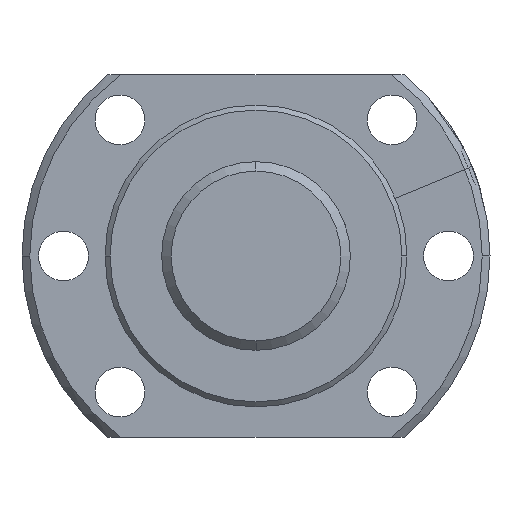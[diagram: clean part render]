
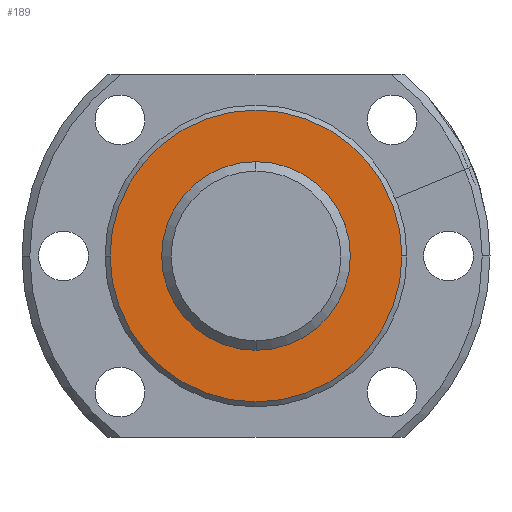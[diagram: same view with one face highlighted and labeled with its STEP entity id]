
A CAD part, left-side view. The second image highlights one B-rep face of the part: STEP entity #189.
In plain terms, the highlighted planar face has unit normal (-1, 0, 0).
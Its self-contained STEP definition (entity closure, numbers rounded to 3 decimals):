
#189 = ADVANCED_FACE( '', ( #345, #346 ), #347, .T. );
#345 = FACE_BOUND( '', #502, .T. );
#346 = FACE_OUTER_BOUND( '', #503, .T. );
#347 = PLANE( '', #504 );
#502 = EDGE_LOOP( '', ( #1009, #1010 ) );
#503 = EDGE_LOOP( '', ( #1011, #1012 ) );
#504 = AXIS2_PLACEMENT_3D( '', #1013, #1014, #1015 );
#1009 = ORIENTED_EDGE( '', *, *, #1159, .F. );
#1010 = ORIENTED_EDGE( '', *, *, #1085, .F. );
#1011 = ORIENTED_EDGE( '', *, *, #1057, .T. );
#1012 = ORIENTED_EDGE( '', *, *, #1170, .T. );
#1013 = CARTESIAN_POINT( '', ( 5., 15.917, 0. ) );
#1014 = DIRECTION( '', ( -1., 0., 0. ) );
#1015 = DIRECTION( '', ( 0., 1., 0. ) );
#1057 = EDGE_CURVE( '', #1234, #1238, #1240, .T. );
#1085 = EDGE_CURVE( '', #1290, #1286, #1292, .T. );
#1159 = EDGE_CURVE( '', #1286, #1290, #1413, .T. );
#1170 = EDGE_CURVE( '', #1238, #1234, #1424, .T. );
#1234 = VERTEX_POINT( '', #1502 );
#1238 = VERTEX_POINT( '', #1507 );
#1240 = CIRCLE( '', #1510, 19.333 );
#1286 = VERTEX_POINT( '', #1586 );
#1290 = VERTEX_POINT( '', #1591 );
#1292 = CIRCLE( '', #1594, 12.5 );
#1413 = CIRCLE( '', #1929, 12.5 );
#1424 = CIRCLE( '', #1940, 19.333 );
#1502 = CARTESIAN_POINT( '', ( 5., 19.333, 0. ) );
#1507 = CARTESIAN_POINT( '', ( 5., -19.333, 0. ) );
#1510 = AXIS2_PLACEMENT_3D( '', #2032, #2033, #2034 );
#1586 = CARTESIAN_POINT( '', ( 5., 12.5, 0. ) );
#1591 = CARTESIAN_POINT( '', ( 5., -12.5, 0. ) );
#1594 = AXIS2_PLACEMENT_3D( '', #2082, #2083, #2084 );
#1929 = AXIS2_PLACEMENT_3D( '', #2219, #2220, #2221 );
#1940 = AXIS2_PLACEMENT_3D( '', #2252, #2253, #2254 );
#2032 = CARTESIAN_POINT( '', ( 5., 0., 0. ) );
#2033 = DIRECTION( '', ( -1., 0., 0. ) );
#2034 = DIRECTION( '', ( 0., 1., 0. ) );
#2082 = CARTESIAN_POINT( '', ( 5., 0., 0. ) );
#2083 = DIRECTION( '', ( -1., 0., 0. ) );
#2084 = DIRECTION( '', ( 0., 1., 0. ) );
#2219 = CARTESIAN_POINT( '', ( 5., 0., 0. ) );
#2220 = DIRECTION( '', ( -1., 0., 0. ) );
#2221 = DIRECTION( '', ( 0., 1., 0. ) );
#2252 = CARTESIAN_POINT( '', ( 5., 0., 0. ) );
#2253 = DIRECTION( '', ( -1., 0., 0. ) );
#2254 = DIRECTION( '', ( 0., 1., 0. ) );
